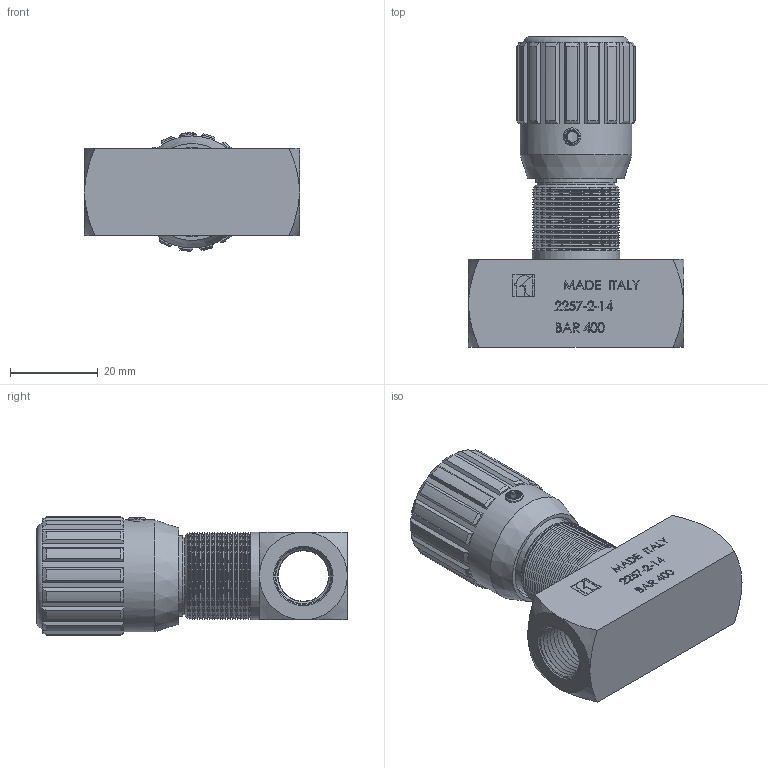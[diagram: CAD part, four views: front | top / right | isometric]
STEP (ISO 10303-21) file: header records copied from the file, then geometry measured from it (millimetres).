
FILE_DESCRIPTION (( 'STEP AP214' ), '1' );
FILE_NAME ('2257-2-14.STEP', '2015-04-11T08:43:00', ( 'cperuzzotti' ), ( 'Hewlett-Packard Company' ), 'SwSTEP 2.0', 'SolidWorks 2014', '' );
FILE_SCHEMA (( 'AUTOMOTIVE_DESIGN' ));
Length unit declared in the file: millimetre
Products named in the file (1): 2257-2-14
Bounding box: 49 x 70.7 x 26.99 mm (x, y, z)
Surface area: 12346.7 mm2 (no closed solid volume)
Topology: 0 solids, 24 shells, 592 faces, 1880 edges, 1256 vertices
Faces by surface type: plane 344, cone 124, bspline 77, cylinder 46, torus 1
Full cylindrical faces by diameter (mm): 2.5 x1, 4 x1, 17.8 x1, 18.3 x1, 20 x1, 25.5 x1
Entity records: 31714 total; most frequent: CARTESIAN_POINT 9769, ORIENTED_EDGE 3048, DIRECTION 2828, EDGE_CURVE 1778, VERTEX_POINT 1243, LINE 1232, VECTOR 1232, AXIS2_PLACEMENT_3D 798
